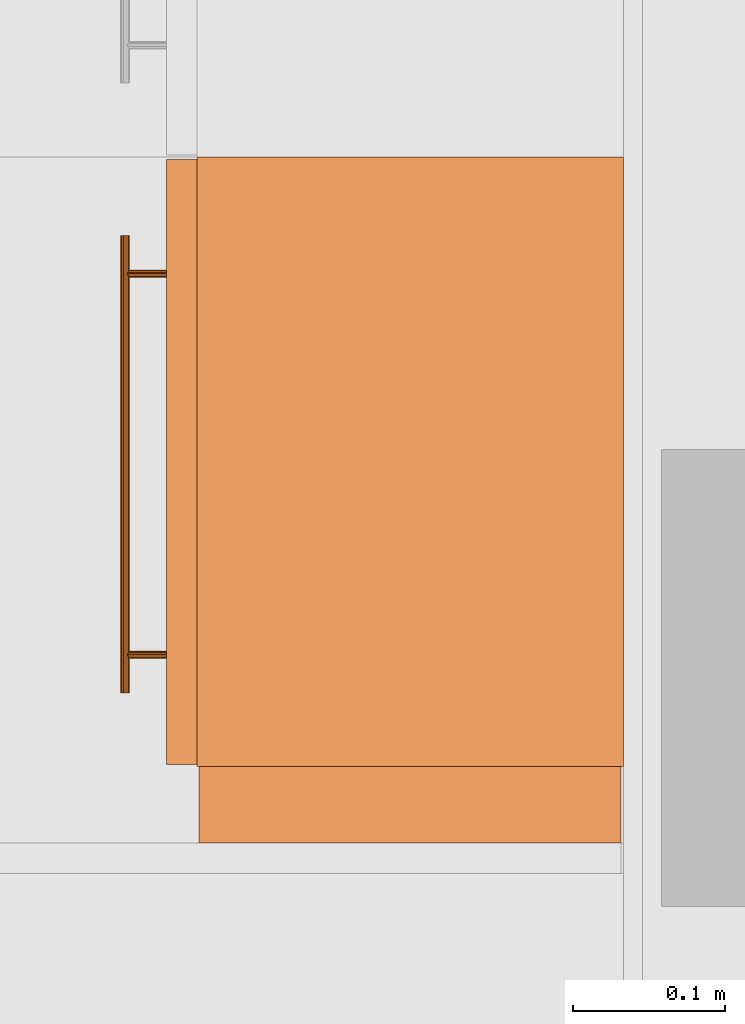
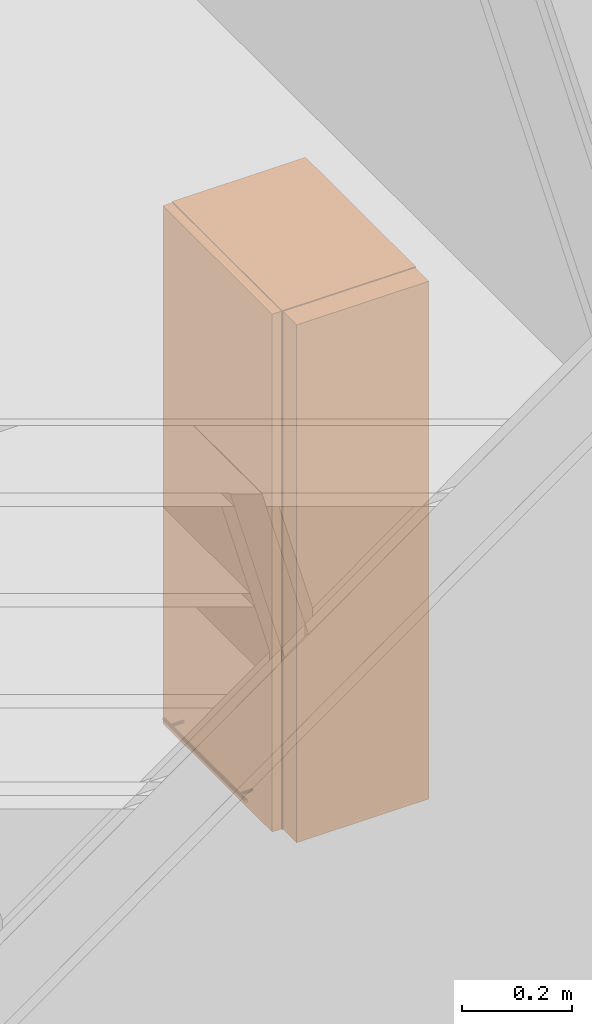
# One storey, part 140 of 167: 1 proxy.
"""IFC2X3 building model written with IfcOpenShell, lengths in millimetres."""

from ifc_helpers import new_model, entity, si_unit, converted_unit, derived_unit, money_unit, direction, frame, origin_with_axes, place, context, subcontext, project, spatial, open_shell, faceted_brep, surface_model, type_object, element, save


model = new_model("IFC2X3")

# Units and contexts
model_context = context("Model", 3, precision=0.01, world=origin_with_axes(), true_north=direction((0.0, 1.0)))
plan_context = context("Plan", 3, precision=0.01, world=origin_with_axes(), true_north=direction((0.0, 1.0)))
body_context = subcontext(model_context, "Body", "Model", "MODEL_VIEW")
ifc_project = project(units=[si_unit("LENGTHUNIT", "METRE", prefix="MILLI"), si_unit("AREAUNIT", "SQUARE_METRE"), si_unit("VOLUMEUNIT", "CUBIC_METRE"), converted_unit("PLANEANGLEUNIT", "DEGREE", entity("IfcPlaneAngleMeasure", 0.0174532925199), si_unit("PLANEANGLEUNIT", "RADIAN"), dimensions=[0, 0, 0, 0, 0, 0, 0]), si_unit("SOLIDANGLEUNIT", "STERADIAN"), money_unit("EUR"), converted_unit("TIMEUNIT", "Year", entity("IfcTimeMeasure", 31556926.0), si_unit("TIMEUNIT", "SECOND"), dimensions=[0, 0, 1, 0, 0, 0, 0]), si_unit("MASSUNIT", "GRAM", prefix="KILO"), si_unit("THERMODYNAMICTEMPERATUREUNIT", "DEGREE_CELSIUS"), si_unit("LUMINOUSINTENSITYUNIT", "LUMEN"), si_unit("ENERGYUNIT", "JOULE", prefix="MEGA"), derived_unit("THERMALCONDUCTANCEUNIT", [(si_unit("POWERUNIT", "WATT"), 1), (si_unit("LENGTHUNIT", "METRE"), -1), (si_unit("THERMODYNAMICTEMPERATUREUNIT", "KELVIN"), -1)]), derived_unit("SPECIFICHEATCAPACITYUNIT", [(si_unit("ENERGYUNIT", "JOULE"), 1), (si_unit("MASSUNIT", "GRAM", prefix="KILO"), -1), (si_unit("THERMODYNAMICTEMPERATUREUNIT", "KELVIN"), -1)]), derived_unit("MASSDENSITYUNIT", [(si_unit("MASSUNIT", "GRAM", prefix="KILO"), 1), (si_unit("VOLUMEUNIT", "CUBIC_METRE"), -1)])], contexts=[model_context, plan_context])

# Site, building, storey
site_placement = place(None, origin_with_axes())
site = spatial("IfcSite", under=ifc_project, at=site_placement, Name="Site", CompositionType="ELEMENT")
building_placement = place(site_placement, origin_with_axes())
building = spatial("IfcBuilding", under=site, at=building_placement, Name="Naam gebouw", CompositionType="ELEMENT")
storey_placement = place(building_placement, origin_with_axes())
storey = spatial("IfcBuildingStorey", under=building, at=storey_placement, Name="Begane grond", CompositionType="ELEMENT", Elevation=0.0)

# Proxy
building_element_proxy_type = type_object("IfcBuildingElementProxyType", Name="Kast wand 1D 24", PredefinedType="NOTDEFINED")
proxy_placement = place(storey_placement, frame((28175.0, 24566.7322881, 50.0), z_axis=(0.0, 0.0, 1.0), x_axis=(0.0, -1.0, 0.0)))
element("IfcBuildingElementProxy", 1, at=proxy_placement, inside=storey, type_object=building_element_proxy_type, Name="__Object-x", context=body_context, shape_type="SurfaceModel", body=[
    faceted_brep([(-50.0, 20.0, 2630.0), (-50.0, 20.0, 2650.0), (-70.0, 20.0, 2650.0), (-70.0, 20.0, 2630.0), (-50.0, 300.0, 2630.0), (-50.0, 300.0, 2650.0), (-70.0, 300.0, 2650.0), (-430.0, 300.0, 2650.0), (-450.0, 300.0, 2650.0), (-450.0, 20.0, 2650.0), (-430.0, 20.0, 2650.0), (-430.0, 20.0, 2630.0), (-450.0, 20.0, 2630.0), (-450.0, 300.0, 2630.0), (-430.0, 300.0, 2630.0), (-70.0, 300.0, 2630.0)], [[[0, 1, 2, 3]], [[4, 5, 1, 0]], [[1, 5, 6, 7, 8, 9, 10, 2]], [[3, 2, 10, 11]], [[0, 3, 11, 12, 13, 14, 15, 4]], [[15, 6, 5, 4]], [[14, 7, 6, 15]], [[13, 8, 7, 14]], [[12, 9, 8, 13]], [[11, 10, 9, 12]]]),
    faceted_brep([(-50.0, 20.0, 1500.0), (-50.0, 20.0, 1520.0), (-70.0, 20.0, 1520.0), (-70.0, 20.0, 1500.0), (-50.0, 300.0, 1500.0), (-50.0, 300.0, 1520.0), (-70.0, 300.0, 1520.0), (-430.0, 300.0, 1520.0), (-450.0, 300.0, 1520.0), (-450.0, 20.0, 1520.0), (-430.0, 20.0, 1520.0), (-430.0, 20.0, 1500.0), (-450.0, 20.0, 1500.0), (-450.0, 300.0, 1500.0), (-430.0, 300.0, 1500.0), (-70.0, 300.0, 1500.0)], [[[0, 1, 2, 3]], [[4, 5, 1, 0]], [[1, 5, 6, 7, 8, 9, 10, 2]], [[3, 2, 10, 11]], [[0, 3, 11, 12, 13, 14, 15, 4]], [[15, 6, 5, 4]], [[14, 7, 6, 15]], [[13, 8, 7, 14]], [[12, 9, 8, 13]], [[11, 10, 9, 12]]]),
    faceted_brep([(-50.0, 20.0, 1520.0), (-50.0, 20.0, 2630.0), (-70.0, 20.0, 2630.0), (-70.0, 20.0, 1520.0), (-50.0, 300.0, 1520.0), (-50.0, 300.0, 2630.0), (-450.0, 300.0, 2630.0), (-450.0, 20.0, 2630.0), (-430.0, 20.0, 2630.0), (-430.0, 280.0, 2630.0), (-70.0, 280.0, 2630.0), (-70.0, 280.0, 1520.0), (-430.0, 280.0, 1520.0), (-430.0, 20.0, 1520.0), (-450.0, 20.0, 1520.0), (-450.0, 300.0, 1520.0)], [[[0, 1, 2, 3]], [[4, 5, 1, 0]], [[1, 5, 6, 7, 8, 9, 10, 2]], [[3, 2, 10, 11]], [[0, 3, 11, 12, 13, 14, 15, 4]], [[15, 6, 5, 4]], [[14, 7, 6, 15]], [[13, 8, 7, 14]], [[12, 9, 8, 13]], [[11, 10, 9, 12]]]),
    faceted_brep([(-430.0, 20.0, 1863.33333333), (-430.0, 20.0, 1883.33333333), (-430.0, 280.0, 1883.33333333), (-430.0, 280.0, 1863.33333333), (-70.0, 20.0, 1863.33333333), (-70.0, 20.0, 1883.33333333), (-70.0, 280.0, 1883.33333333), (-70.0, 280.0, 1863.33333333)], [[[0, 1, 2, 3]], [[4, 5, 1, 0]], [[1, 5, 6, 2]], [[3, 2, 6, 7]], [[0, 3, 7, 4]], [[7, 6, 5, 4]]]),
    faceted_brep([(-430.0, 20.0, 2246.66666667), (-430.0, 20.0, 2266.66666667), (-430.0, 280.0, 2266.66666667), (-430.0, 280.0, 2246.66666667), (-70.0, 20.0, 2246.66666667), (-70.0, 20.0, 2266.66666667), (-70.0, 280.0, 2266.66666667), (-70.0, 280.0, 2246.66666667)], [[[0, 1, 2, 3]], [[4, 5, 1, 0]], [[1, 5, 6, 2]], [[3, 2, 6, 7]], [[0, 3, 7, 4]], [[7, 6, 5, 4]]]),
    faceted_brep([(-51.5, 20.0, 1501.5), (-51.5, 0.0, 1501.5), (-448.5, 0.0, 1501.5), (-448.5, 20.0, 1501.5), (-51.5, 20.0, 2648.5), (-51.5, 0.0, 2648.5), (-448.5, 0.0, 2648.5), (-448.5, 20.0, 2648.5)], [[[0, 1, 2, 3]], [[4, 5, 1, 0]], [[1, 5, 6, 2]], [[3, 2, 6, 7]], [[0, 3, 7, 4]], [[7, 6, 5, 4]]]),
    faceted_brep([(-98.5, -28.1480502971, 1548.7283614), (-98.5, -27.0, 1548.5), (-98.5, -25.8519497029, 1548.7283614), (-98.5, -24.8786796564, 1549.37867966), (-98.5, -24.2283614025, 1550.3519497), (-98.5, -24.0, 1551.5), (-98.5, -24.2283614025, 1552.6480503), (-98.5, -24.8786796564, 1553.62132034), (-98.5, -25.8519497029, 1554.2716386), (-98.5, -27.0, 1554.5), (-98.5, -28.1480502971, 1554.2716386), (-98.5, -29.1213203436, 1553.62132034), (-98.5, -29.7716385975, 1552.6480503), (-98.5, -30.0, 1551.5), (-98.5, -29.7716385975, 1550.3519497), (-98.5, -29.1213203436, 1549.37867966), (-398.5, -28.1480502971, 1548.7283614), (-398.5, -27.0, 1548.5), (-398.5, -25.8519497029, 1548.7283614), (-398.5, -24.8786796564, 1549.37867966), (-398.5, -24.2283614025, 1550.3519497), (-398.5, -24.0, 1551.5), (-398.5, -24.2283614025, 1552.6480503), (-398.5, -24.8786796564, 1553.62132034), (-398.5, -25.8519497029, 1554.2716386), (-398.5, -27.0, 1554.5), (-398.5, -28.1480502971, 1554.2716386), (-398.5, -29.1213203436, 1553.62132034), (-398.5, -29.7716385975, 1552.6480503), (-398.5, -30.0, 1551.5), (-398.5, -29.7716385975, 1550.3519497), (-398.5, -29.1213203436, 1549.37867966)], [[[0, 1, 2, 3, 4, 5, 6, 7, 8, 9, 10, 11, 12, 13, 14, 15]], [[0, 16, 17, 1]], [[1, 17, 18, 2]], [[2, 18, 19, 3]], [[3, 19, 20, 4]], [[4, 20, 21, 5]], [[5, 21, 22, 6]], [[6, 22, 23, 7]], [[7, 23, 24, 8]], [[8, 24, 25, 9]], [[9, 25, 26, 10]], [[10, 26, 27, 11]], [[11, 27, 28, 12]], [[12, 28, 29, 13]], [[13, 29, 30, 14]], [[14, 30, 31, 15]], [[15, 31, 16, 0]], [[16, 31, 30, 29, 28, 27, 26, 25, 24, 23, 22, 21, 20, 19, 18, 17]]]),
    surface_model("IfcShellBasedSurfaceModel", [(-121.190301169, -24.156637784, 1550.54329142), (-121.190301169, 0.0, 1550.54329142), (-121.0, 0.0, 1551.5), (-121.0, -24.0, 1551.5), (-121.732233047, -24.5761600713, 1549.73223305), (-121.732233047, 0.0, 1549.73223305), (-122.543291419, 0.0, 1549.19030117), (-123.5, 0.0, 1549.0), (-124.456708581, 0.0, 1549.19030117), (-125.267766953, 0.0, 1549.73223305), (-125.809698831, 0.0, 1550.54329142), (-126.0, 0.0, 1551.5), (-125.809698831, 0.0, 1552.45670858), (-125.267766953, 0.0, 1553.26776695), (-124.456708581, 0.0, 1553.80969883), (-123.5, 0.0, 1554.0), (-122.543291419, 0.0, 1553.80969883), (-121.732233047, 0.0, 1553.26776695), (-121.190301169, 0.0, 1552.45670858), (-121.190301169, -24.156637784, 1552.45670858), (-122.543291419, -25.0855049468, 1549.19030117), (-123.5, -25.3416876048, 1549.0), (-124.456708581, -25.0855049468, 1549.19030117), (-125.267766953, -24.5761600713, 1549.73223305), (-125.809698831, -24.156637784, 1550.54329142), (-126.0, -24.0, 1551.5), (-125.809698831, -24.156637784, 1552.45670858), (-125.267766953, -24.5761600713, 1553.26776695), (-124.456708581, -25.0855049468, 1553.80969883), (-123.5, -25.3416876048, 1554.0), (-122.543291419, -25.0855049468, 1553.80969883), (-121.732233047, -24.5761600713, 1553.26776695)], [open_shell([[[0, 1, 2, 3]], [[4, 5, 1, 0]], [[1, 5, 6, 7, 8, 9, 10, 11, 12, 13, 14, 15, 16, 17, 18, 2]], [[3, 2, 18, 19]], [[20, 6, 5, 4]], [[21, 7, 6, 20]], [[22, 8, 7, 21]], [[23, 9, 8, 22]], [[24, 10, 9, 23]], [[25, 11, 10, 24]], [[26, 12, 11, 25]], [[27, 13, 12, 26]], [[28, 14, 13, 27]], [[29, 15, 14, 28]], [[30, 16, 15, 29]], [[31, 17, 16, 30]], [[19, 18, 17, 31]]])]),
    surface_model("IfcShellBasedSurfaceModel", [(-371.190301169, -24.156637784, 1550.54329142), (-371.190301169, 0.0, 1550.54329142), (-371.0, 0.0, 1551.5), (-371.0, -24.0, 1551.5), (-371.732233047, -24.5761600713, 1549.73223305), (-371.732233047, 0.0, 1549.73223305), (-372.543291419, 0.0, 1549.19030117), (-373.5, 0.0, 1549.0), (-374.456708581, 0.0, 1549.19030117), (-375.267766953, 0.0, 1549.73223305), (-375.809698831, 0.0, 1550.54329142), (-376.0, 0.0, 1551.5), (-375.809698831, 0.0, 1552.45670858), (-375.267766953, 0.0, 1553.26776695), (-374.456708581, 0.0, 1553.80969883), (-373.5, 0.0, 1554.0), (-372.543291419, 0.0, 1553.80969883), (-371.732233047, 0.0, 1553.26776695), (-371.190301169, 0.0, 1552.45670858), (-371.190301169, -24.156637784, 1552.45670858), (-372.543291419, -25.0855049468, 1549.19030117), (-373.5, -25.3416876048, 1549.0), (-374.456708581, -25.0855049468, 1549.19030117), (-375.267766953, -24.5761600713, 1549.73223305), (-375.809698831, -24.156637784, 1550.54329142), (-376.0, -24.0, 1551.5), (-375.809698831, -24.156637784, 1552.45670858), (-375.267766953, -24.5761600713, 1553.26776695), (-374.456708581, -25.0855049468, 1553.80969883), (-373.5, -25.3416876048, 1554.0), (-372.543291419, -25.0855049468, 1553.80969883), (-371.732233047, -24.5761600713, 1553.26776695)], [open_shell([[[0, 1, 2, 3]], [[4, 5, 1, 0]], [[1, 5, 6, 7, 8, 9, 10, 11, 12, 13, 14, 15, 16, 17, 18, 2]], [[3, 2, 18, 19]], [[20, 6, 5, 4]], [[21, 7, 6, 20]], [[22, 8, 7, 21]], [[23, 9, 8, 22]], [[24, 10, 9, 23]], [[25, 11, 10, 24]], [[26, 12, 11, 25]], [[27, 13, 12, 26]], [[28, 14, 13, 27]], [[29, 15, 14, 28]], [[30, 16, 15, 29]], [[31, 17, 16, 30]], [[19, 18, 17, 31]]])]),
    faceted_brep([(-50.0, 298.5, 1501.5), (0.0, 298.5, 1501.5), (0.0, 21.5, 1501.5), (-50.0, 21.5, 1501.5), (-50.0, 298.5, 2648.5), (0.0, 298.5, 2648.5), (0.0, 21.5, 2648.5), (-50.0, 21.5, 2648.5)], [[[0, 1, 2, 3]], [[4, 5, 1, 0]], [[1, 5, 6, 2]], [[3, 2, 6, 7]], [[0, 3, 7, 4]], [[7, 6, 5, 4]]]),
])

save(model, "model.ifc")
